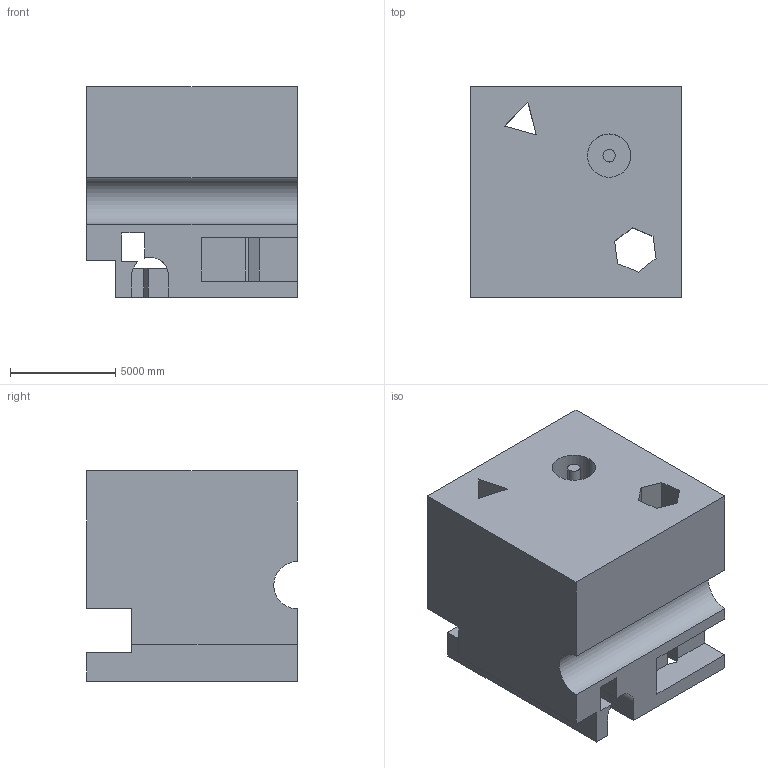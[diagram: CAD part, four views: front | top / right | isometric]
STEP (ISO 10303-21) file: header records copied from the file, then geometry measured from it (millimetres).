
FILE_DESCRIPTION (( 'STEP AP203' ), '1' );
FILE_NAME ('937.STEP', '2022-07-29T14:29:01', ( 'user' ), ( '' ), 'SwSTEP 2.0', 'SolidWorks 2021', '' );
FILE_SCHEMA (( 'CONFIG_CONTROL_DESIGN' ));
Length unit declared in the file: centimetre
Products named in the file (1): 937
Bounding box: 10000 x 10000 x 10000 mm (x, y, z)
Volume: 800506845904.3 mm3; surface area: 825077213.5 mm2
Topology: 1 solids, 1 shells, 51 faces, 156 edges, 104 vertices
Faces by surface type: plane 42, cylinder 9
Entity records: 1822 total; most frequent: CARTESIAN_POINT 321, ORIENTED_EDGE 312, DIRECTION 276, EDGE_CURVE 156, VECTOR 134, LINE 134, VERTEX_POINT 104, AXIS2_PLACEMENT_3D 71
